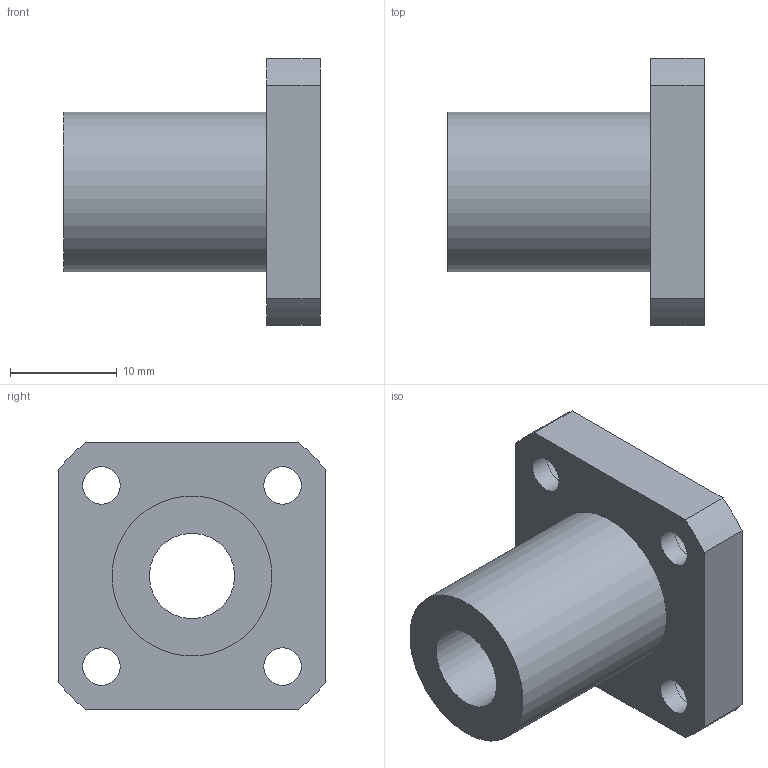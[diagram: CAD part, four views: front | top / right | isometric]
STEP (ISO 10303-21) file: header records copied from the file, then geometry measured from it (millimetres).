
FILE_DESCRIPTION(/* description */ (''),/* implementation_level */ '2;1');
FILE_NAME(/* name */ 'LMK8UU',/* time_stamp */ '2019-07-09T15:13:55+02:00',/* author */ ('VĂ©gh MĂˇtĂ©'),/* organization */ ('Bearing Kft'),/* preprocessor_version */ 'ST-DEVELOPER v16.7',/* originating_system */ 'DEX',/* authorisation */ $);
FILE_SCHEMA (('AUTOMOTIVE_DESIGN {1 0 10303 214 3 1 1}'));
Length unit declared in the file: millimetre
Products named in the file (1): LMK8UU
Bounding box: 24 x 25 x 25 mm (x, y, z)
Volume: 4793.4 mm3; surface area: 3345.5 mm2
Topology: 1 solids, 1 shells, 324 faces, 813 edges, 542 vertices
Faces by surface type: plane 245, bspline 63, cylinder 16
Full cylindrical faces by diameter (mm): 3.5 x4, 6 x4, 8 x1, 15 x1
Entity records: 12058 total; most frequent: CARTESIAN_POINT 4672, ORIENTED_EDGE 1600, DIRECTION 1230, EDGE_CURVE 800, LINE 642, VECTOR 642, VERTEX_POINT 542, EDGE_LOOP 398
